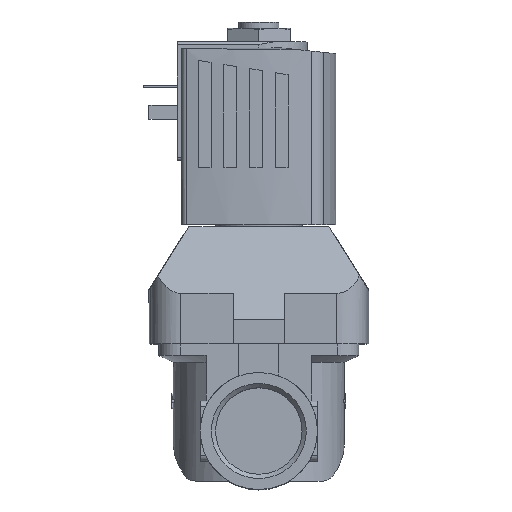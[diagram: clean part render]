
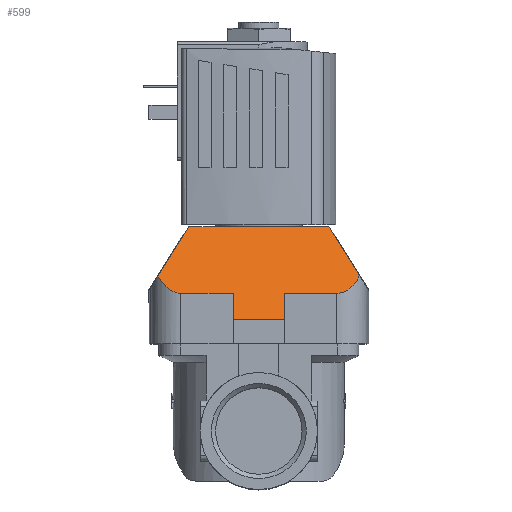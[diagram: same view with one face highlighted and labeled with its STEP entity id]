
A CAD part, top view. The second image highlights one B-rep face of the part: STEP entity #599.
In plain terms, the highlighted planar face has unit normal (0, 0.514, 0.858) as drawn and (-0.857, 0.514, 0) by its records, which use the part's own axes.
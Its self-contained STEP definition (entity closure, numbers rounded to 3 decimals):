
#599 = ADVANCED_FACE( '', ( #1435 ), #1436, .T. );
#1435 = FACE_OUTER_BOUND( '', #2551, .T. );
#1436 = PLANE( '', #2552 );
#2551 = EDGE_LOOP( '', ( #4167, #4168, #4169, #4170, #4171, #4172, #4173, #4174, #4175, #4176 ) );
#2552 = AXIS2_PLACEMENT_3D( '', #4177, #4178, #4179 );
#4167 = ORIENTED_EDGE( '', *, *, #7198, .F. );
#4168 = ORIENTED_EDGE( '', *, *, #7199, .T. );
#4169 = ORIENTED_EDGE( '', *, *, #7200, .T. );
#4170 = ORIENTED_EDGE( '', *, *, #7201, .T. );
#4171 = ORIENTED_EDGE( '', *, *, #6754, .T. );
#4172 = ORIENTED_EDGE( '', *, *, #6743, .T. );
#4173 = ORIENTED_EDGE( '', *, *, #7202, .T. );
#4174 = ORIENTED_EDGE( '', *, *, #7203, .T. );
#4175 = ORIENTED_EDGE( '', *, *, #6974, .T. );
#4176 = ORIENTED_EDGE( '', *, *, #6908, .T. );
#4177 = CARTESIAN_POINT( '', ( -49.1, -2.9, 38.5 ) );
#4178 = DIRECTION( '', ( -0.857, 0.514, 0. ) );
#4179 = DIRECTION( '', ( -0.514, -0.857, 0. ) );
#6743 = EDGE_CURVE( '', #8054, #8055, #8056, .T. );
#6754 = EDGE_CURVE( '', #8074, #8054, #8075, .T. );
#6908 = EDGE_CURVE( '', #8358, #8356, #8359, .T. );
#6974 = EDGE_CURVE( '', #8466, #8358, #8467, .T. );
#7198 = EDGE_CURVE( '', #8844, #8356, #8845, .T. );
#7199 = EDGE_CURVE( '', #8844, #8846, #8847, .T. );
#7200 = EDGE_CURVE( '', #8846, #8848, #8849, .T. );
#7201 = EDGE_CURVE( '', #8848, #8074, #8850, .T. );
#7202 = EDGE_CURVE( '', #8055, #8851, #8852, .T. );
#7203 = EDGE_CURVE( '', #8851, #8466, #8853, .T. );
#8054 = VERTEX_POINT( '', #9996 );
#8055 = VERTEX_POINT( '', #9997 );
#8056 = LINE( '', #9998, #9999 );
#8074 = VERTEX_POINT( '', #10025 );
#8075 = LINE( '', #10026, #10027 );
#8356 = VERTEX_POINT( '', #10419 );
#8358 = VERTEX_POINT( '', #10422 );
#8359 = LINE( '', #10423, #10424 );
#8466 = VERTEX_POINT( '', #10597 );
#8467 = ELLIPSE( '', #10598, 20.408, 10.5 );
#8844 = VERTEX_POINT( '', #11177 );
#8845 = LINE( '', #11178, #11179 );
#8846 = VERTEX_POINT( '', #11180 );
#8847 = LINE( '', #11181, #11182 );
#8848 = VERTEX_POINT( '', #11183 );
#8849 = ELLIPSE( '', #11184, 20.408, 10.5 );
#8850 = LINE( '', #11185, #11186 );
#8851 = VERTEX_POINT( '', #11187 );
#8852 = LINE( '', #11188, #11189 );
#8853 = LINE( '', #11190, #11191 );
#9996 = CARTESIAN_POINT( '', ( -44., 5.6, -9. ) );
#9997 = CARTESIAN_POINT( '', ( -44., 5.6, 9. ) );
#9998 = CARTESIAN_POINT( '', ( -44., 5.6, -9. ) );
#9999 = VECTOR( '', #13031, 1000. );
#10025 = CARTESIAN_POINT( '', ( -38.5, 14.767, -9. ) );
#10026 = CARTESIAN_POINT( '', ( -28.206, 31.924, -9. ) );
#10027 = VECTOR( '', #13043, 1000. );
#10419 = CARTESIAN_POINT( '', ( -24.5, 38.1, 24.5 ) );
#10422 = CARTESIAN_POINT( '', ( -34.856, 20.84, 35.287 ) );
#10423 = CARTESIAN_POINT( '', ( -46.61, 1.25, 47.531 ) );
#10424 = VECTOR( '', #13255, 1000. );
#10597 = CARTESIAN_POINT( '', ( -38.5, 14.767, 27.335 ) );
#10598 = AXIS2_PLACEMENT_3D( '', #13323, #13324, #13325 );
#11177 = CARTESIAN_POINT( '', ( -24.5, 38.1, -24.5 ) );
#11178 = CARTESIAN_POINT( '', ( -24.5, 38.1, 27.335 ) );
#11179 = VECTOR( '', #13589, 1000. );
#11180 = CARTESIAN_POINT( '', ( -34.856, 20.84, -35.287 ) );
#11181 = CARTESIAN_POINT( '', ( -30.116, 28.74, -30.35 ) );
#11182 = VECTOR( '', #13590, 1000. );
#11183 = CARTESIAN_POINT( '', ( -38.5, 14.767, -27.335 ) );
#11184 = AXIS2_PLACEMENT_3D( '', #13591, #13592, #13593 );
#11185 = CARTESIAN_POINT( '', ( -38.5, 14.767, -27.335 ) );
#11186 = VECTOR( '', #13594, 1000. );
#11187 = CARTESIAN_POINT( '', ( -38.5, 14.767, 9. ) );
#11188 = CARTESIAN_POINT( '', ( -29.662, 29.497, 9. ) );
#11189 = VECTOR( '', #13595, 1000. );
#11190 = CARTESIAN_POINT( '', ( -38.5, 14.767, 9. ) );
#11191 = VECTOR( '', #13596, 1000. );
#13031 = DIRECTION( '', ( 0., 0., 1. ) );
#13043 = DIRECTION( '', ( -0.514, -0.857, 0. ) );
#13255 = DIRECTION( '', ( 0.453, 0.756, -0.472 ) );
#13323 = CARTESIAN_POINT( '', ( -28., 32.267, 27.335 ) );
#13324 = DIRECTION( '', ( -0.857, 0.514, 0. ) );
#13325 = DIRECTION( '', ( -0.514, -0.857, 0. ) );
#13589 = DIRECTION( '', ( 0., 0., 1. ) );
#13590 = DIRECTION( '', ( -0.453, -0.756, -0.472 ) );
#13591 = CARTESIAN_POINT( '', ( -28., 32.267, -27.335 ) );
#13592 = DIRECTION( '', ( -0.857, 0.514, 0. ) );
#13593 = DIRECTION( '', ( -0.514, -0.857, 0. ) );
#13594 = DIRECTION( '', ( 0., 0., 1. ) );
#13595 = DIRECTION( '', ( 0.514, 0.857, 0. ) );
#13596 = DIRECTION( '', ( 0., 0., 1. ) );
